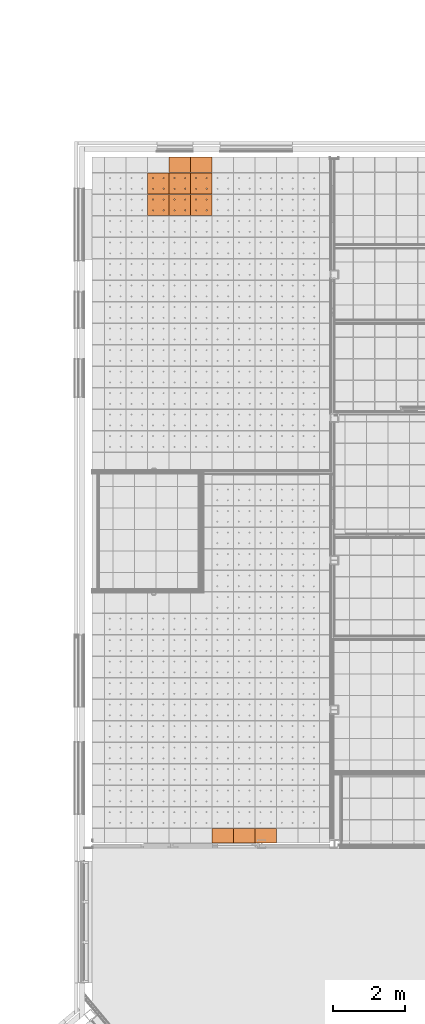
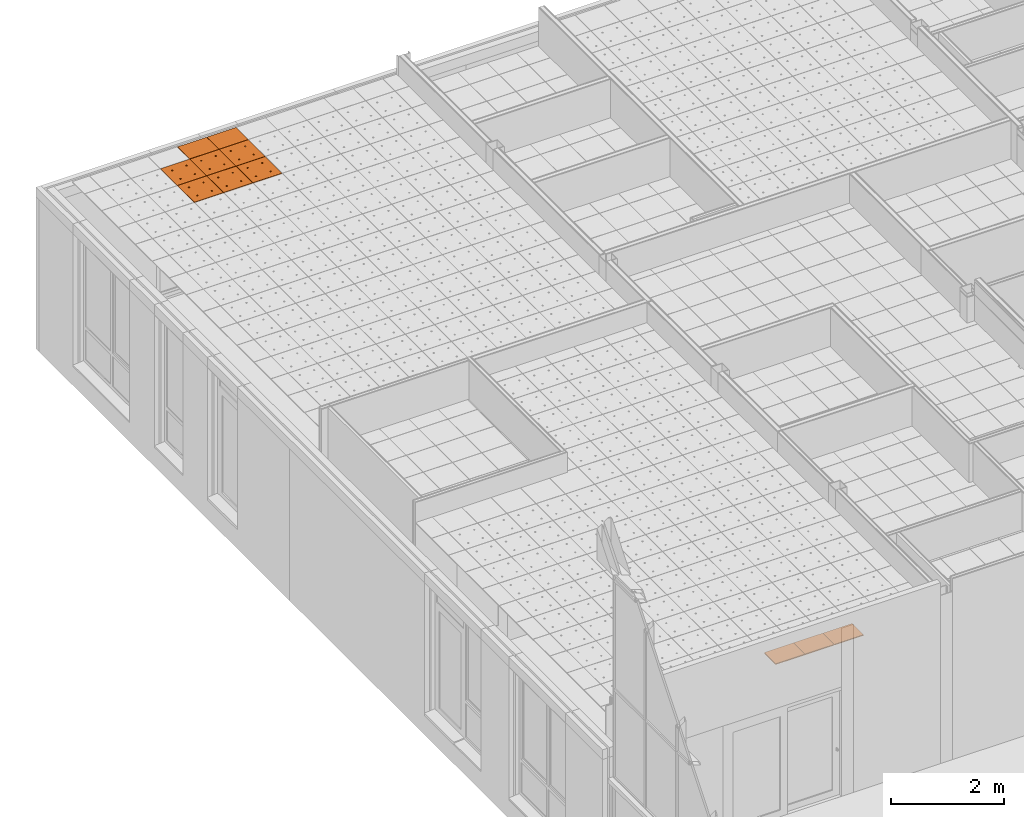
# One storey, part 249 of 338: 11 proxies, 2 elements without a shape of their own.
"""IFC2X3 building model written with IfcOpenShell, lengths in millimetres."""

from ifc_helpers import new_model, entity, si_unit, converted_unit, derived_unit, money_unit, direction, frame, origin_with_axes, place, context, subcontext, project, spatial, faceted_brep, source, transform, mapped, material, type_object, type_shapes, element, aggregate, save


model = new_model("IFC2X3")

# Units and contexts
model_context = context("Model", 3, precision=0.01, world=origin_with_axes(), true_north=direction((0.0, 1.0)))
plan_context = context("Plan", 3, precision=0.01, world=origin_with_axes(), true_north=direction((0.0, 1.0)))
body_context = subcontext(model_context, "Body", "Model", "MODEL_VIEW")
ifc_project = project(units=[si_unit("LENGTHUNIT", "METRE", prefix="MILLI"), si_unit("AREAUNIT", "SQUARE_METRE"), si_unit("VOLUMEUNIT", "CUBIC_METRE"), converted_unit("PLANEANGLEUNIT", "DEGREE", entity("IfcPlaneAngleMeasure", 0.0174532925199), si_unit("PLANEANGLEUNIT", "RADIAN"), dimensions=[0, 0, 0, 0, 0, 0, 0]), money_unit("EUR"), converted_unit("TIMEUNIT", "Year", entity("IfcTimeMeasure", 31556926.0), si_unit("TIMEUNIT", "SECOND"), dimensions=[0, 0, 1, 0, 0, 0, 0]), si_unit("MASSUNIT", "GRAM", prefix="KILO"), si_unit("THERMODYNAMICTEMPERATUREUNIT", "DEGREE_CELSIUS"), si_unit("LUMINOUSINTENSITYUNIT", "LUMEN"), si_unit("ENERGYUNIT", "JOULE", prefix="MEGA"), derived_unit("THERMALCONDUCTANCEUNIT", [(si_unit("POWERUNIT", "WATT"), 1), (si_unit("LENGTHUNIT", "METRE"), -1), (si_unit("THERMODYNAMICTEMPERATUREUNIT", "KELVIN"), -1)]), derived_unit("SPECIFICHEATCAPACITYUNIT", [(si_unit("ENERGYUNIT", "JOULE"), 1), (si_unit("MASSUNIT", "GRAM", prefix="KILO"), -1), (si_unit("THERMODYNAMICTEMPERATUREUNIT", "KELVIN"), -1)]), derived_unit("MASSDENSITYUNIT", [(si_unit("MASSUNIT", "GRAM", prefix="KILO"), 1), (si_unit("VOLUMEUNIT", "CUBIC_METRE"), -1)])], contexts=[model_context, plan_context])

# Site, building, storey
site_placement = place(None, origin_with_axes())
site = spatial("IfcSite", under=ifc_project, at=site_placement, Name="Fortuinstraat Woensdrecht", CompositionType="ELEMENT")
building_placement = place(site_placement, origin_with_axes())
building = spatial("IfcBuilding", under=site, at=building_placement, Name="IKC Fortuna", CompositionType="ELEMENT")
storey_placement = place(building_placement, origin_with_axes())
storey = spatial("IfcBuildingStorey", under=building, at=storey_placement, Name="00 begane grond", CompositionType="ELEMENT", Elevation=0.0)

# Covering, proxies
covering_type = type_object("IfcCoveringType", Name="Curtain Wall Type", PredefinedType="CEILING")
covering_1_placement = place(storey_placement, frame((15059.4416165, 34009.703821, 3210.0), z_axis=(0.0, 0.0, 1.0), x_axis=(1.0, 0.0, 0.0)))
covering_1 = element("IfcCovering", 1, at=covering_1_placement, inside=storey, type_object=covering_type, Name="45_Plafondafwerking_P01", PredefinedType="CEILING")
ifc_material = material(Name="Gipsplaat")
building_element_proxy_type_1 = type_object("IfcBuildingElementProxyType", Name="Distinct Panel 600 x 600 x 20", PredefinedType="NOTDEFINED")
shared_shape_1 = source(origin_with_axes(), body_context, "Body", "Brep", [
    faceted_brep([(2.49999999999, 2.49999999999, -10.0), (300.0, 2.49999999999, -10.0), (300.0, 2.49999999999, 10.0), (2.49999999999, 2.49999999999, 10.0), (2.49999999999, 300.0, -10.0), (2.49999999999, 597.5, -10.0), (300.0, 597.5, -10.0), (597.5, 597.5, -10.0), (597.5, 300.0, -10.0), (597.5, 2.49999999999, -10.0), (166.25, 450.06232995, -10.0), (165.79423259, 452.64711538, -10.0), (164.896546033, 455.11348892, -10.0), (163.58421608, 457.38651108, -10.0), (161.897117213, 459.39711721, -10.0), (159.886511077, 461.08421608, -10.0), (157.613488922, 462.39654603, -10.0), (155.147115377, 463.29423259, -10.0), (152.562329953, 463.75, -10.0), (149.937670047, 463.75, -10.0), (147.352884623, 463.29423259, -10.0), (144.886511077, 462.39654603, -10.0), (142.613488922, 461.08421608, -10.0), (140.602882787, 459.39711721, -10.0), (138.91578392, 457.38651108, -10.0), (137.603453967, 455.11348892, -10.0), (136.705767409, 452.64711538, -10.0), (136.25, 450.06232995, -10.0), (136.25, 448.75, -10.0), (136.25, 447.43767005, -10.0), (136.705767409, 444.85288462, -10.0), (137.603453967, 442.38651108, -10.0), (138.91578392, 440.11348892, -10.0), (140.602882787, 438.10288279, -10.0), (142.613488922, 436.41578392, -10.0), (144.886511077, 435.10345397, -10.0), (147.352884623, 434.20576741, -10.0), (149.937670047, 433.75, -10.0), (152.562329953, 433.75, -10.0), (155.147115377, 434.20576741, -10.0), (157.613488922, 435.10345397, -10.0), (159.886511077, 436.41578392, -10.0), (161.897117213, 438.10288279, -10.0), (163.58421608, 440.11348892, -10.0), (164.896546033, 442.38651108, -10.0), (165.79423259, 444.85288462, -10.0), (166.25, 447.43767005, -10.0), (463.75, 450.06232995, -10.0), (463.29423259, 452.64711538, -10.0), (462.396546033, 455.11348892, -10.0), (461.08421608, 457.38651108, -10.0), (459.397117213, 459.39711721, -10.0), (457.386511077, 461.08421608, -10.0), (455.113488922, 462.39654603, -10.0), (452.647115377, 463.29423259, -10.0), (450.062329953, 463.75, -10.0), (447.437670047, 463.75, -10.0), (444.852884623, 463.29423259, -10.0), (442.386511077, 462.39654603, -10.0), (440.113488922, 461.08421608, -10.0), (438.102882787, 459.39711721, -10.0), (436.41578392, 457.38651108, -10.0), (435.103453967, 455.11348892, -10.0), (434.205767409, 452.64711538, -10.0), (433.75, 450.06232995, -10.0), (433.75, 448.75, -10.0), (433.75, 447.43767005, -10.0), (434.205767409, 444.85288462, -10.0), (435.103453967, 442.38651108, -10.0), (436.41578392, 440.11348892, -10.0), (438.102882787, 438.10288279, -10.0), (440.113488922, 436.41578392, -10.0), (442.386511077, 435.10345397, -10.0), (444.852884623, 434.20576741, -10.0), (447.437670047, 433.75, -10.0), (450.062329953, 433.75, -10.0), (452.647115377, 434.20576741, -10.0), (455.113488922, 435.10345397, -10.0), (457.386511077, 436.41578392, -10.0), (459.397117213, 438.10288279, -10.0), (461.08421608, 440.11348892, -10.0), (462.396546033, 442.38651108, -10.0), (463.29423259, 444.85288462, -10.0), (463.75, 447.43767005, -10.0), (463.75, 152.56232995, -10.0), (463.29423259, 155.14711538, -10.0), (462.396546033, 157.61348892, -10.0), (461.08421608, 159.88651108, -10.0), (459.397117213, 161.89711721, -10.0), (457.386511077, 163.58421608, -10.0), (455.113488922, 164.89654603, -10.0), (452.647115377, 165.79423259, -10.0), (450.062329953, 166.25, -10.0), (447.437670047, 166.25, -10.0), (444.852884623, 165.79423259, -10.0), (442.386511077, 164.89654603, -10.0), (440.113488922, 163.58421608, -10.0), (438.102882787, 161.89711721, -10.0), (436.41578392, 159.88651108, -10.0), (435.103453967, 157.61348892, -10.0), (434.205767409, 155.14711538, -10.0), (433.75, 152.56232995, -10.0), (433.75, 151.25, -10.0), (433.75, 149.93767005, -10.0), (434.205767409, 147.35288462, -10.0), (435.103453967, 144.88651108, -10.0), (436.41578392, 142.61348892, -10.0), (438.102882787, 140.60288279, -10.0), (440.113488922, 138.91578392, -10.0), (442.386511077, 137.60345397, -10.0), (444.852884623, 136.70576741, -10.0), (447.437670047, 136.25, -10.0), (450.062329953, 136.25, -10.0), (452.647115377, 136.70576741, -10.0), (455.113488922, 137.60345397, -10.0), (457.386511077, 138.91578392, -10.0), (459.397117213, 140.60288279, -10.0), (461.08421608, 142.61348892, -10.0), (462.396546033, 144.88651108, -10.0), (463.29423259, 147.35288462, -10.0), (463.75, 149.93767005, -10.0), (166.25, 152.56232995, -10.0), (165.79423259, 155.14711538, -10.0), (164.896546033, 157.61348892, -10.0), (163.58421608, 159.88651108, -10.0), (161.897117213, 161.89711721, -10.0), (159.886511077, 163.58421608, -10.0), (157.613488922, 164.89654603, -10.0), (155.147115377, 165.79423259, -10.0), (152.562329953, 166.25, -10.0), (149.937670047, 166.25, -10.0), (147.352884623, 165.79423259, -10.0), (144.886511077, 164.89654603, -10.0), (142.613488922, 163.58421608, -10.0), (140.602882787, 161.89711721, -10.0), (138.91578392, 159.88651108, -10.0), (137.603453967, 157.61348892, -10.0), (136.705767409, 155.14711538, -10.0), (136.25, 152.56232995, -10.0), (136.25, 151.25, -10.0), (136.25, 149.93767005, -10.0), (136.705767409, 147.35288462, -10.0), (137.603453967, 144.88651108, -10.0), (138.91578392, 142.61348892, -10.0), (140.602882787, 140.60288279, -10.0), (142.613488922, 138.91578392, -10.0), (144.886511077, 137.60345397, -10.0), (147.352884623, 136.70576741, -10.0), (149.937670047, 136.25, -10.0), (152.562329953, 136.25, -10.0), (155.147115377, 136.70576741, -10.0), (157.613488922, 137.60345397, -10.0), (159.886511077, 138.91578392, -10.0), (161.897117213, 140.60288279, -10.0), (163.58421608, 142.61348892, -10.0), (164.896546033, 144.88651108, -10.0), (165.79423259, 147.35288462, -10.0), (166.25, 149.93767005, -10.0), (597.5, 2.49999999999, 10.0), (597.5, 300.0, 10.0), (597.5, 597.5, 10.0), (300.0, 597.5, 10.0), (2.49999999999, 597.5, 10.0), (2.49999999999, 300.0, 10.0), (166.25, 450.06232995, 10.0), (166.25, 447.43767005, 10.0), (165.79423259, 444.85288462, 10.0), (164.896546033, 442.38651108, 10.0), (163.58421608, 440.11348892, 10.0), (161.897117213, 438.10288279, 10.0), (159.886511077, 436.41578392, 10.0), (157.613488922, 435.10345397, 10.0), (155.147115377, 434.20576741, 10.0), (152.562329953, 433.75, 10.0), (149.937670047, 433.75, 10.0), (147.352884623, 434.20576741, 10.0), (144.886511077, 435.10345397, 10.0), (142.613488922, 436.41578392, 10.0), (140.602882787, 438.10288279, 10.0), (138.91578392, 440.11348892, 10.0), (137.603453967, 442.38651108, 10.0), (136.705767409, 444.85288462, 10.0), (136.25, 447.43767005, 10.0), (136.25, 448.75, 10.0), (136.25, 450.06232995, 10.0), (136.705767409, 452.64711538, 10.0), (137.603453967, 455.11348892, 10.0), (138.91578392, 457.38651108, 10.0), (140.602882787, 459.39711721, 10.0), (142.613488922, 461.08421608, 10.0), (144.886511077, 462.39654603, 10.0), (147.352884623, 463.29423259, 10.0), (149.937670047, 463.75, 10.0), (152.562329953, 463.75, 10.0), (155.147115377, 463.29423259, 10.0), (157.613488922, 462.39654603, 10.0), (159.886511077, 461.08421608, 10.0), (161.897117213, 459.39711721, 10.0), (163.58421608, 457.38651108, 10.0), (164.896546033, 455.11348892, 10.0), (165.79423259, 452.64711538, 10.0), (463.75, 450.06232995, 10.0), (463.75, 447.43767005, 10.0), (463.29423259, 444.85288462, 10.0), (462.396546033, 442.38651108, 10.0), (461.08421608, 440.11348892, 10.0), (459.397117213, 438.10288279, 10.0), (457.386511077, 436.41578392, 10.0), (455.113488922, 435.10345397, 10.0), (452.647115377, 434.20576741, 10.0), (450.062329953, 433.75, 10.0), (447.437670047, 433.75, 10.0), (444.852884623, 434.20576741, 10.0), (442.386511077, 435.10345397, 10.0), (440.113488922, 436.41578392, 10.0), (438.102882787, 438.10288279, 10.0), (436.41578392, 440.11348892, 10.0), (435.103453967, 442.38651108, 10.0), (434.205767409, 444.85288462, 10.0), (433.75, 447.43767005, 10.0), (433.75, 448.75, 10.0), (433.75, 450.06232995, 10.0), (434.205767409, 452.64711538, 10.0), (435.103453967, 455.11348892, 10.0), (436.41578392, 457.38651108, 10.0), (438.102882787, 459.39711721, 10.0), (440.113488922, 461.08421608, 10.0), (442.386511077, 462.39654603, 10.0), (444.852884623, 463.29423259, 10.0), (447.437670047, 463.75, 10.0), (450.062329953, 463.75, 10.0), (452.647115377, 463.29423259, 10.0), (455.113488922, 462.39654603, 10.0), (457.386511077, 461.08421608, 10.0), (459.397117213, 459.39711721, 10.0), (461.08421608, 457.38651108, 10.0), (462.396546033, 455.11348892, 10.0), (463.29423259, 452.64711538, 10.0), (463.75, 152.56232995, 10.0), (463.75, 149.93767005, 10.0), (463.29423259, 147.35288462, 10.0), (462.396546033, 144.88651108, 10.0), (461.08421608, 142.61348892, 10.0), (459.397117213, 140.60288279, 10.0), (457.386511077, 138.91578392, 10.0), (455.113488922, 137.60345397, 10.0), (452.647115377, 136.70576741, 10.0), (450.062329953, 136.25, 10.0), (447.437670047, 136.25, 10.0), (444.852884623, 136.70576741, 10.0), (442.386511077, 137.60345397, 10.0), (440.113488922, 138.91578392, 10.0), (438.102882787, 140.60288279, 10.0), (436.41578392, 142.61348892, 10.0), (435.103453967, 144.88651108, 10.0), (434.205767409, 147.35288462, 10.0), (433.75, 149.93767005, 10.0), (433.75, 151.25, 10.0), (433.75, 152.56232995, 10.0), (434.205767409, 155.14711538, 10.0), (435.103453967, 157.61348892, 10.0), (436.41578392, 159.88651108, 10.0), (438.102882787, 161.89711721, 10.0), (440.113488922, 163.58421608, 10.0), (442.386511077, 164.89654603, 10.0), (444.852884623, 165.79423259, 10.0), (447.437670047, 166.25, 10.0), (450.062329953, 166.25, 10.0), (452.647115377, 165.79423259, 10.0), (455.113488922, 164.89654603, 10.0), (457.386511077, 163.58421608, 10.0), (459.397117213, 161.89711721, 10.0), (461.08421608, 159.88651108, 10.0), (462.396546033, 157.61348892, 10.0), (463.29423259, 155.14711538, 10.0), (166.25, 152.56232995, 10.0), (166.25, 149.93767005, 10.0), (165.79423259, 147.35288462, 10.0), (164.896546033, 144.88651108, 10.0), (163.58421608, 142.61348892, 10.0), (161.897117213, 140.60288279, 10.0), (159.886511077, 138.91578392, 10.0), (157.613488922, 137.60345397, 10.0), (155.147115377, 136.70576741, 10.0), (152.562329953, 136.25, 10.0), (149.937670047, 136.25, 10.0), (147.352884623, 136.70576741, 10.0), (144.886511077, 137.60345397, 10.0), (142.613488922, 138.91578392, 10.0), (140.602882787, 140.60288279, 10.0), (138.91578392, 142.61348892, 10.0), (137.603453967, 144.88651108, 10.0), (136.705767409, 147.35288462, 10.0), (136.25, 149.93767005, 10.0), (136.25, 151.25, 10.0), (136.25, 152.56232995, 10.0), (136.705767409, 155.14711538, 10.0), (137.603453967, 157.61348892, 10.0), (138.91578392, 159.88651108, 10.0), (140.602882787, 161.89711721, 10.0), (142.613488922, 163.58421608, 10.0), (144.886511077, 164.89654603, 10.0), (147.352884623, 165.79423259, 10.0), (149.937670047, 166.25, 10.0), (152.562329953, 166.25, 10.0), (155.147115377, 165.79423259, 10.0), (157.613488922, 164.89654603, 10.0), (159.886511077, 163.58421608, 10.0), (161.897117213, 161.89711721, 10.0), (163.58421608, 159.88651108, 10.0), (164.896546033, 157.61348892, 10.0), (165.79423259, 155.14711538, 10.0)], [[[0, 1, 2, 3]], [[0, 4, 5, 6, 7, 8, 9, 1], [10, 11, 12, 13, 14, 15, 16, 17, 18, 19, 20, 21, 22, 23, 24, 25, 26, 27, 28, 29, 30, 31, 32, 33, 34, 35, 36, 37, 38, 39, 40, 41, 42, 43, 44, 45, 46], [47, 48, 49, 50, 51, 52, 53, 54, 55, 56, 57, 58, 59, 60, 61, 62, 63, 64, 65, 66, 67, 68, 69, 70, 71, 72, 73, 74, 75, 76, 77, 78, 79, 80, 81, 82, 83], [84, 85, 86, 87, 88, 89, 90, 91, 92, 93, 94, 95, 96, 97, 98, 99, 100, 101, 102, 103, 104, 105, 106, 107, 108, 109, 110, 111, 112, 113, 114, 115, 116, 117, 118, 119, 120], [121, 122, 123, 124, 125, 126, 127, 128, 129, 130, 131, 132, 133, 134, 135, 136, 137, 138, 139, 140, 141, 142, 143, 144, 145, 146, 147, 148, 149, 150, 151, 152, 153, 154, 155, 156, 157]], [[1, 9, 158, 2]], [[3, 2, 158, 159, 160, 161, 162, 163], [164, 165, 166, 167, 168, 169, 170, 171, 172, 173, 174, 175, 176, 177, 178, 179, 180, 181, 182, 183, 184, 185, 186, 187, 188, 189, 190, 191, 192, 193, 194, 195, 196, 197, 198, 199, 200], [201, 202, 203, 204, 205, 206, 207, 208, 209, 210, 211, 212, 213, 214, 215, 216, 217, 218, 219, 220, 221, 222, 223, 224, 225, 226, 227, 228, 229, 230, 231, 232, 233, 234, 235, 236, 237], [238, 239, 240, 241, 242, 243, 244, 245, 246, 247, 248, 249, 250, 251, 252, 253, 254, 255, 256, 257, 258, 259, 260, 261, 262, 263, 264, 265, 266, 267, 268, 269, 270, 271, 272, 273, 274], [275, 276, 277, 278, 279, 280, 281, 282, 283, 284, 285, 286, 287, 288, 289, 290, 291, 292, 293, 294, 295, 296, 297, 298, 299, 300, 301, 302, 303, 304, 305, 306, 307, 308, 309, 310, 311]], [[4, 0, 3, 163]], [[5, 4, 163, 162]], [[6, 5, 162, 161]], [[7, 6, 161, 160]], [[8, 7, 160, 159]], [[9, 8, 159, 158]], [[11, 10, 164, 200]], [[12, 11, 200, 199]], [[13, 12, 199, 198]], [[14, 13, 198, 197]], [[15, 14, 197, 196]], [[16, 15, 196, 195]], [[17, 16, 195, 194]], [[18, 17, 194, 193]], [[19, 18, 193, 192]], [[20, 19, 192, 191]], [[21, 20, 191, 190]], [[22, 21, 190, 189]], [[23, 22, 189, 188]], [[24, 23, 188, 187]], [[25, 24, 187, 186]], [[26, 25, 186, 185]], [[27, 26, 185, 184]], [[28, 27, 184, 183]], [[29, 28, 183, 182]], [[30, 29, 182, 181]], [[31, 30, 181, 180]], [[32, 31, 180, 179]], [[33, 32, 179, 178]], [[34, 33, 178, 177]], [[35, 34, 177, 176]], [[36, 35, 176, 175]], [[37, 36, 175, 174]], [[38, 37, 174, 173]], [[39, 38, 173, 172]], [[40, 39, 172, 171]], [[41, 40, 171, 170]], [[42, 41, 170, 169]], [[43, 42, 169, 168]], [[44, 43, 168, 167]], [[45, 44, 167, 166]], [[46, 45, 166, 165]], [[10, 46, 165, 164]], [[48, 47, 201, 237]], [[49, 48, 237, 236]], [[50, 49, 236, 235]], [[51, 50, 235, 234]], [[52, 51, 234, 233]], [[53, 52, 233, 232]], [[54, 53, 232, 231]], [[55, 54, 231, 230]], [[56, 55, 230, 229]], [[57, 56, 229, 228]], [[58, 57, 228, 227]], [[59, 58, 227, 226]], [[60, 59, 226, 225]], [[61, 60, 225, 224]], [[62, 61, 224, 223]], [[63, 62, 223, 222]], [[64, 63, 222, 221]], [[65, 64, 221, 220]], [[66, 65, 220, 219]], [[67, 66, 219, 218]], [[68, 67, 218, 217]], [[69, 68, 217, 216]], [[70, 69, 216, 215]], [[71, 70, 215, 214]], [[72, 71, 214, 213]], [[73, 72, 213, 212]], [[74, 73, 212, 211]], [[75, 74, 211, 210]], [[76, 75, 210, 209]], [[77, 76, 209, 208]], [[78, 77, 208, 207]], [[79, 78, 207, 206]], [[80, 79, 206, 205]], [[81, 80, 205, 204]], [[82, 81, 204, 203]], [[83, 82, 203, 202]], [[47, 83, 202, 201]], [[85, 84, 238, 274]], [[86, 85, 274, 273]], [[87, 86, 273, 272]], [[88, 87, 272, 271]], [[89, 88, 271, 270]], [[90, 89, 270, 269]], [[91, 90, 269, 268]], [[92, 91, 268, 267]], [[93, 92, 267, 266]], [[94, 93, 266, 265]], [[95, 94, 265, 264]], [[96, 95, 264, 263]], [[97, 96, 263, 262]], [[98, 97, 262, 261]], [[99, 98, 261, 260]], [[100, 99, 260, 259]], [[101, 100, 259, 258]], [[102, 101, 258, 257]], [[103, 102, 257, 256]], [[104, 103, 256, 255]], [[105, 104, 255, 254]], [[106, 105, 254, 253]], [[107, 106, 253, 252]], [[108, 107, 252, 251]], [[109, 108, 251, 250]], [[110, 109, 250, 249]], [[111, 110, 249, 248]], [[112, 111, 248, 247]], [[113, 112, 247, 246]], [[114, 113, 246, 245]], [[115, 114, 245, 244]], [[116, 115, 244, 243]], [[117, 116, 243, 242]], [[118, 117, 242, 241]], [[119, 118, 241, 240]], [[120, 119, 240, 239]], [[84, 120, 239, 238]], [[122, 121, 275, 311]], [[123, 122, 311, 310]], [[124, 123, 310, 309]], [[125, 124, 309, 308]], [[126, 125, 308, 307]], [[127, 126, 307, 306]], [[128, 127, 306, 305]], [[129, 128, 305, 304]], [[130, 129, 304, 303]], [[131, 130, 303, 302]], [[132, 131, 302, 301]], [[133, 132, 301, 300]], [[134, 133, 300, 299]], [[135, 134, 299, 298]], [[136, 135, 298, 297]], [[137, 136, 297, 296]], [[138, 137, 296, 295]], [[139, 138, 295, 294]], [[140, 139, 294, 293]], [[141, 140, 293, 292]], [[142, 141, 292, 291]], [[143, 142, 291, 290]], [[144, 143, 290, 289]], [[145, 144, 289, 288]], [[146, 145, 288, 287]], [[147, 146, 287, 286]], [[148, 147, 286, 285]], [[149, 148, 285, 284]], [[150, 149, 284, 283]], [[151, 150, 283, 282]], [[152, 151, 282, 281]], [[153, 152, 281, 280]], [[154, 153, 280, 279]], [[155, 154, 279, 278]], [[156, 155, 278, 277]], [[157, 156, 277, 276]], [[121, 157, 276, 275]]]),
])
type_shapes(building_element_proxy_type_1, [shared_shape_1])
proxy_1_placement = place(covering_1_placement, frame((600.0, 0.0, 1.56763491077e-10), z_axis=(0.0, 0.0, 1.0), x_axis=(1.0, 0.0, 0.0)))
proxy_1 = element("IfcBuildingElementProxy", 2, at=proxy_1_placement, type_object=building_element_proxy_type_1, material=ifc_material, Name="__Panel-D", context=body_context, shape_type="MappedRepresentation", body=[
    mapped(shared_shape_1, transform((300.0, 300.0, 0.0), x_axis=(-1.0, 0.0, 0.0), y_axis=(0.0, -1.0, 0.0), z_axis=(0.0, 0.0, 1.0))),
])
proxy_2_placement = place(covering_1_placement, frame((600.0, 600.0, 1.56763491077e-10), z_axis=(0.0, 0.0, 1.0), x_axis=(1.0, 0.0, 0.0)))
proxy_2 = element("IfcBuildingElementProxy", 3, at=proxy_2_placement, type_object=building_element_proxy_type_1, material=ifc_material, Name="__Panel-D", context=body_context, shape_type="MappedRepresentation", body=[
    mapped(shared_shape_1, transform((300.0, 300.0, 0.0), x_axis=(-1.0, 0.0, 0.0), y_axis=(0.0, -1.0, 0.0), z_axis=(0.0, 0.0, 1.0))),
])
proxy_3_placement = place(covering_1_placement, frame((1800.0, 600.0, 1.172395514e-10), z_axis=(0.0, 0.0, 1.0), x_axis=(1.0, 0.0, 0.0)))
proxy_3 = element("IfcBuildingElementProxy", 4, at=proxy_3_placement, type_object=building_element_proxy_type_1, material=ifc_material, Name="__Panel-D", context=body_context, shape_type="MappedRepresentation", body=[
    mapped(shared_shape_1, transform((300.0, 300.0, 0.0), x_axis=(-1.0, 0.0, 0.0), y_axis=(0.0, -1.0, 0.0), z_axis=(0.0, 0.0, 1.0))),
])
proxy_4_placement = place(covering_1_placement, frame((1800.0, 0.0, 1.172395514e-10), z_axis=(0.0, 0.0, 1.0), x_axis=(1.0, 0.0, 0.0)))
proxy_4 = element("IfcBuildingElementProxy", 5, at=proxy_4_placement, type_object=building_element_proxy_type_1, material=ifc_material, Name="__Panel-D", context=body_context, shape_type="MappedRepresentation", body=[
    mapped(shared_shape_1, transform((300.0, 300.0, 0.0), x_axis=(-1.0, 0.0, 0.0), y_axis=(0.0, -1.0, 0.0), z_axis=(0.0, 0.0, 1.0))),
])
proxy_5_placement = place(covering_1_placement, frame((1200.0, 600.0, 1.37223565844e-10), z_axis=(0.0, 0.0, 1.0), x_axis=(1.0, 0.0, 0.0)))
proxy_5 = element("IfcBuildingElementProxy", 6, at=proxy_5_placement, type_object=building_element_proxy_type_1, material=ifc_material, Name="__Panel-D", context=body_context, shape_type="MappedRepresentation", body=[
    mapped(shared_shape_1, transform((300.0, 300.0, 0.0), x_axis=(-1.0, 0.0, 0.0), y_axis=(0.0, -1.0, 0.0), z_axis=(0.0, 0.0, 1.0))),
])
proxy_6_placement = place(covering_1_placement, frame((1200.0, 0.0, 1.37223565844e-10), z_axis=(0.0, 0.0, 1.0), x_axis=(1.0, 0.0, 0.0)))
proxy_6 = element("IfcBuildingElementProxy", 7, at=proxy_6_placement, type_object=building_element_proxy_type_1, material=ifc_material, Name="__Panel-D", context=body_context, shape_type="MappedRepresentation", body=[
    mapped(shared_shape_1, transform((300.0, 300.0, 0.0), x_axis=(-1.0, 0.0, 0.0), y_axis=(0.0, -1.0, 0.0), z_axis=(0.0, 0.0, 1.0))),
])
building_element_proxy_type_2 = type_object("IfcBuildingElementProxyType", Name="Main Panel 600 x 437 x 20", PredefinedType="NOTDEFINED")
shared_shape_2 = source(origin_with_axes(), body_context, "Body", "Brep", [
    faceted_brep([(2.5, 165.907222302, -10.0), (597.5, 165.907222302, -10.0), (597.5, 165.907222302, 10.0), (2.5, 165.907222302, 10.0), (2.50000000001, 597.5, -10.0), (597.5, 597.5, -10.0), (597.5, 597.5, 10.0), (2.50000000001, 597.5, 10.0)], [[[0, 1, 2, 3]], [[0, 4, 5, 1]], [[1, 5, 6, 2]], [[3, 2, 6, 7]], [[4, 0, 3, 7]], [[5, 4, 7, 6]]]),
])
type_shapes(building_element_proxy_type_2, [shared_shape_2])
proxy_7_placement = place(covering_1_placement, frame((1800.0, 1118.29638989, 1.172395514e-10), z_axis=(0.0, 0.0, 1.0), x_axis=(1.0, 0.0, 0.0)))
proxy_7 = element("IfcBuildingElementProxy", 8, at=proxy_7_placement, type_object=building_element_proxy_type_2, material=ifc_material, Name="__Panel-D", context=body_context, shape_type="MappedRepresentation", body=[
    mapped(shared_shape_2, transform((300.0, 381.703610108, 0.0), x_axis=(-1.0, 0.0, 0.0), y_axis=(0.0, -1.0, 0.0), z_axis=(0.0, 0.0, 1.0))),
])
proxy_8_placement = place(covering_1_placement, frame((1200.0, 1118.29638989, 1.37223565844e-10), z_axis=(0.0, 0.0, 1.0), x_axis=(1.0, 0.0, 0.0)))
proxy_8 = element("IfcBuildingElementProxy", 9, at=proxy_8_placement, type_object=building_element_proxy_type_2, material=ifc_material, Name="__Panel-D", context=body_context, shape_type="MappedRepresentation", body=[
    mapped(shared_shape_2, transform((300.0, 381.703610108, 0.0), x_axis=(-1.0, 0.0, 0.0), y_axis=(0.0, -1.0, 0.0), z_axis=(0.0, 0.0, 1.0))),
])
aggregate(covering_1, [proxy_1, proxy_2, proxy_3, proxy_4, proxy_5, proxy_6, proxy_7, proxy_8])

covering_2_placement = place(storey_placement, frame((17451.9845996, 24118.5314449, 3210.0), z_axis=(0.0, 0.0, 1.0), x_axis=(1.0, 0.0, 0.0)))
covering_2 = element("IfcCovering", 10, at=covering_2_placement, inside=storey, type_object=covering_type, Name="45_Plafondafwerking_P01", PredefinedType="CEILING")
building_element_proxy_type_3 = type_object("IfcBuildingElementProxyType", Name="600 x 410 x 20", PredefinedType="NOTDEFINED")
shared_shape_3 = source(origin_with_axes(), body_context, "Body", "Brep", [
    faceted_brep([(2.5, 2.50000298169, -10.0), (597.5, 2.50000298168, -10.0), (597.5, 2.50000298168, 10.0), (2.5, 2.50000298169, 10.0), (2.50000000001, 407.734830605, -10.0), (597.5, 407.734830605, -10.0), (597.5, 407.734830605, 10.0), (2.50000000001, 407.734830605, 10.0)], [[[0, 1, 2, 3]], [[0, 4, 5, 1]], [[1, 5, 6, 2]], [[3, 2, 6, 7]], [[4, 0, 3, 7]], [[5, 4, 7, 6]]]),
])
type_shapes(building_element_proxy_type_3, [shared_shape_3])
proxy_9_placement = place(covering_2_placement, frame((600.0, -7705.1174153, 0.0), z_axis=(0.0, 0.0, 1.0), x_axis=(1.0, 0.0, 0.0)))
proxy_9 = element("IfcBuildingElementProxy", 11, at=proxy_9_placement, type_object=building_element_proxy_type_3, material=ifc_material, Name="__600x614 Rockfon Krios", context=body_context, shape_type="MappedRepresentation", body=[
    mapped(shared_shape_3, transform((300.0, 205.117415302, 0.0), x_axis=(-1.0, 0.0, 0.0), y_axis=(0.0, -1.0, 0.0), z_axis=(0.0, 0.0, 1.0))),
])
proxy_10_placement = place(covering_2_placement, frame((0.0, -7705.1174153, 0.0), z_axis=(0.0, 0.0, 1.0), x_axis=(1.0, 0.0, 0.0)))
proxy_10 = element("IfcBuildingElementProxy", 12, at=proxy_10_placement, type_object=building_element_proxy_type_3, material=ifc_material, Name="__600x667 Rockfon Krios", context=body_context, shape_type="MappedRepresentation", body=[
    mapped(shared_shape_3, transform((300.0, 205.117415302, 0.0), x_axis=(-1.0, 0.0, 0.0), y_axis=(0.0, -1.0, 0.0), z_axis=(0.0, 0.0, 1.0))),
])
proxy_11_placement = place(covering_2_placement, frame((1200.0, -7705.1174153, 0.0), z_axis=(0.0, 0.0, 1.0), x_axis=(1.0, 0.0, 0.0)))
proxy_11 = element("IfcBuildingElementProxy", 13, at=proxy_11_placement, type_object=building_element_proxy_type_3, material=ifc_material, Name="__600x706 Rockfon Krios", context=body_context, shape_type="MappedRepresentation", body=[
    mapped(shared_shape_3, transform((300.0, 205.117415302, 0.0), x_axis=(-1.0, 0.0, 0.0), y_axis=(0.0, -1.0, 0.0), z_axis=(0.0, 0.0, 1.0))),
])
aggregate(covering_2, [proxy_9, proxy_10, proxy_11])

save(model, "model.ifc")
